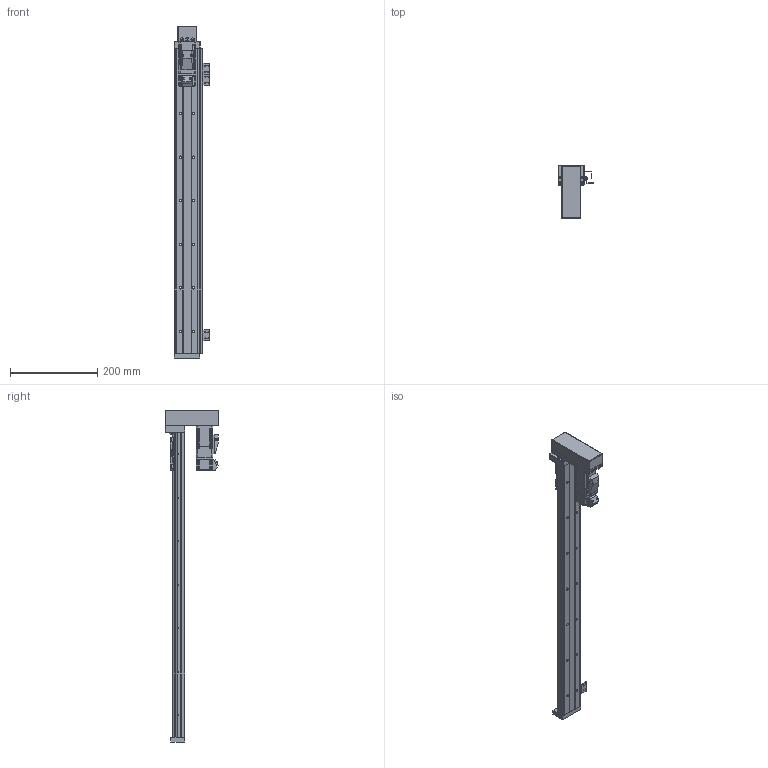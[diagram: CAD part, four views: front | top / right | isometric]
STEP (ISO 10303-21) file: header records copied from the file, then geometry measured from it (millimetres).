
FILE_DESCRIPTION (( 'STEP AP203' ), '1' );
FILE_NAME ('KH60D10C-700A1-H2MS0-Z.STEP', '2022-06-09T01:24:15', ( 'CXY' ), ( 'BT' ), 'SwSTEP 2.0', 'SolidWorks 2016', '' );
FILE_SCHEMA (( 'CONFIG_CONTROL_DESIGN' ));
Length unit declared in the file: millimetre
Products named in the file (21): KH86-08-SX674; KH60-02-0000; KK60-01-02-XXXX_KK60-01-02-150; KK60-02-01-H0_KK60-02-01-H0&H1; 綴釱; KK60-04-07G; KK60-08-01; 内六角圆柱头螺钉M3×18; B-KK60-A1-F0C; KK60-02-04; 侂狟萇儂P10B; 囀鞠褒す埴芛蹟隊M3℅5; 鞠褒蹟譫M3; 錨璃2; 晦埴芛M3X6蹟隊; KH60D10C-700A1-H2MS0-Z; KH60-500; 内六角圆柱头螺钉M3×10; KK60-02-02; 216々湍; KK60-02-03
Assembly tree (33 placements, depth 3):
  KH60D10C-700A1-H2MS0-Z
    KH60-500
    B-KK60-A1-F0C
      錨璃2
    綴釱
    KH86-08-SX674  x3
      KK60-08-01
      囀鞠褒す埴芛蹟隊M3℅5
      鞠褒蹟譫M3
    KK60-01-02-XXXX_KK60-01-02-150
    KH60-02-0000
      KK60-02-01-H0_KK60-02-01-H0&H1
      KK60-02-02
      KK60-02-03
      内六角圆柱头螺钉M3×18  x4
      侂狟萇儂P10B
      KK60-02-04
      216々湍
      内六角圆柱头螺钉M3×10  x4
      晦埴芛M3X6蹟隊  x4
    KK60-04-07G
Bounding box: 82.4 x 123.6 x 762 mm (x, y, z)
Volume: 888743.4 mm3; surface area: 305753.8 mm2
Topology: 39 solids, 39 shells, 2280 faces, 5958 edges, 3819 vertices
Faces by surface type: plane 1050, cylinder 609, bspline 280, cone 267, torus 62, sphere 12
Entity records: 61450 total; most frequent: CARTESIAN_POINT 15236, ORIENTED_EDGE 9514, DIRECTION 8277, EDGE_CURVE 4757, VERTEX_POINT 3122, VECTOR 2903, LINE 2903, AXIS2_PLACEMENT_3D 2687
